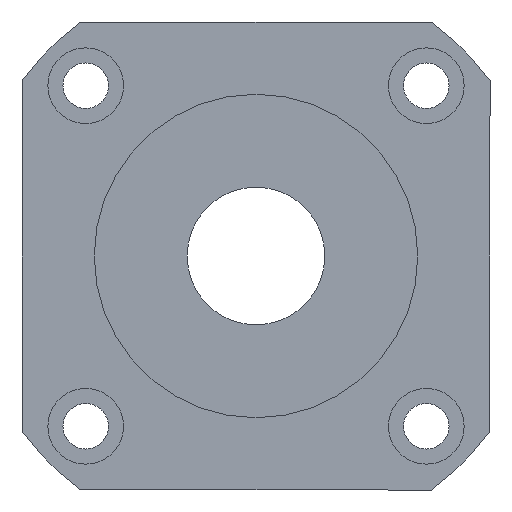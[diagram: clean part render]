
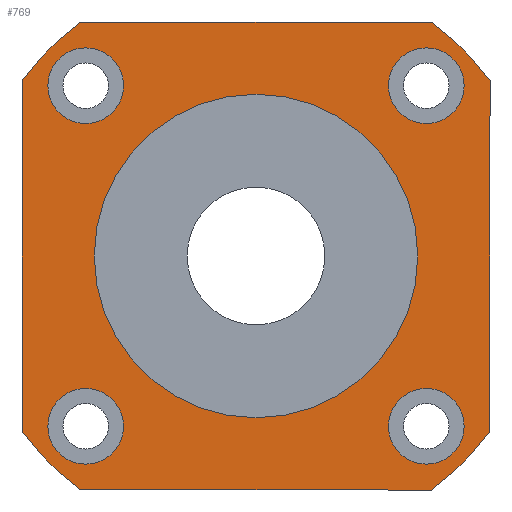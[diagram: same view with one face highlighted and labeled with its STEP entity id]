
A CAD part, left-side view. The second image highlights one B-rep face of the part: STEP entity #769.
In plain terms, the highlighted planar face has unit normal (-1, 0, 0).
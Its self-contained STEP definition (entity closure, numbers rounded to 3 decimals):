
#165=CARTESIAN_POINT('',(0.0,24.749,19.249));
#166=VERTEX_POINT('',#165);
#167=CARTESIAN_POINT('',(0.0,24.749,24.749));
#168=DIRECTION('',(1.0,0.0,0.0));
#169=DIRECTION('',(0.0,0.0,-1.0));
#170=AXIS2_PLACEMENT_3D('',#167,#168,#169);
#171=CIRCLE('',#170,5.5);
#172=EDGE_CURVE('',#166,#166,#171,.T.);
#233=CARTESIAN_POINT('',(0.0,19.249,-24.749));
#234=VERTEX_POINT('',#233);
#235=CARTESIAN_POINT('',(0.0,24.749,-24.749));
#236=DIRECTION('',(1.0,0.0,0.0));
#237=DIRECTION('',(0.0,-1.0,0.0));
#238=AXIS2_PLACEMENT_3D('',#235,#236,#237);
#239=CIRCLE('',#238,5.5);
#240=EDGE_CURVE('',#234,#234,#239,.T.);
#301=CARTESIAN_POINT('',(0.0,-24.749,-19.249));
#302=VERTEX_POINT('',#301);
#303=CARTESIAN_POINT('',(0.0,-24.749,-24.749));
#304=DIRECTION('',(1.0,0.0,0.0));
#305=DIRECTION('',(0.0,0.0,1.0));
#306=AXIS2_PLACEMENT_3D('',#303,#304,#305);
#307=CIRCLE('',#306,5.5);
#308=EDGE_CURVE('',#302,#302,#307,.T.);
#369=CARTESIAN_POINT('',(0.0,-19.249,24.749));
#370=VERTEX_POINT('',#369);
#371=CARTESIAN_POINT('',(0.0,-24.749,24.749));
#372=DIRECTION('',(1.0,0.0,0.0));
#373=DIRECTION('',(0.0,1.0,0.0));
#374=AXIS2_PLACEMENT_3D('',#371,#372,#373);
#375=CIRCLE('',#374,5.5);
#376=EDGE_CURVE('',#370,#370,#375,.T.);
#529=CARTESIAN_POINT('',(0.0,25.5,-34.));
#530=VERTEX_POINT('',#529);
#537=CARTESIAN_POINT('',(0.0,34.,-25.5));
#538=VERTEX_POINT('',#537);
#539=CARTESIAN_POINT('',(0.0,0.,0.));
#540=DIRECTION('',(1.0,0.0,0.0));
#541=DIRECTION('',(0.0,1.0,0.0));
#542=AXIS2_PLACEMENT_3D('',#539,#540,#541);
#543=CIRCLE('',#542,42.5);
#544=EDGE_CURVE('',#530,#538,#543,.T.);
#561=CARTESIAN_POINT('',(0.0,-25.5,-34.));
#562=VERTEX_POINT('',#561);
#569=CARTESIAN_POINT('',(0.0,-25.5,-34.));
#570=DIRECTION('',(0.0,1.0,0.0));
#571=VECTOR('',#570,51.0);
#572=LINE('',#569,#571);
#573=EDGE_CURVE('',#562,#530,#572,.T.);
#585=CARTESIAN_POINT('',(0.0,-34.,-25.5));
#586=VERTEX_POINT('',#585);
#593=CARTESIAN_POINT('',(0.0,0.,0.));
#594=DIRECTION('',(1.0,0.0,0.0));
#595=DIRECTION('',(0.0,1.0,0.0));
#596=AXIS2_PLACEMENT_3D('',#593,#594,#595);
#597=CIRCLE('',#596,42.5);
#598=EDGE_CURVE('',#586,#562,#597,.T.);
#610=CARTESIAN_POINT('',(0.0,-34.,25.5));
#611=VERTEX_POINT('',#610);
#618=CARTESIAN_POINT('',(0.0,-34.,25.5));
#619=DIRECTION('',(0.0,0.0,-1.0));
#620=VECTOR('',#619,51.0);
#621=LINE('',#618,#620);
#622=EDGE_CURVE('',#611,#586,#621,.T.);
#636=CARTESIAN_POINT('',(0.0,23.5,0.));
#637=VERTEX_POINT('',#636);
#638=CARTESIAN_POINT('',(0.0,0.,0.));
#639=DIRECTION('',(1.0,0.0,0.0));
#640=DIRECTION('',(0.0,-1.0,0.0));
#641=AXIS2_PLACEMENT_3D('',#638,#639,#640);
#642=CIRCLE('',#641,23.5);
#643=EDGE_CURVE('',#637,#637,#642,.T.);
#654=CARTESIAN_POINT('',(0.0,-25.5,34.));
#655=VERTEX_POINT('',#654);
#662=CARTESIAN_POINT('',(0.0,0.,0.));
#663=DIRECTION('',(1.0,0.0,0.0));
#664=DIRECTION('',(0.0,1.0,0.0));
#665=AXIS2_PLACEMENT_3D('',#662,#663,#664);
#666=CIRCLE('',#665,42.5);
#667=EDGE_CURVE('',#655,#611,#666,.T.);
#679=CARTESIAN_POINT('',(0.0,25.5,34.));
#680=VERTEX_POINT('',#679);
#687=CARTESIAN_POINT('',(0.0,25.5,34.));
#688=DIRECTION('',(0.0,-1.0,0.0));
#689=VECTOR('',#688,51.);
#690=LINE('',#687,#689);
#691=EDGE_CURVE('',#680,#655,#690,.T.);
#703=CARTESIAN_POINT('',(0.0,34.,25.5));
#704=VERTEX_POINT('',#703);
#711=CARTESIAN_POINT('',(0.0,0.,0.));
#712=DIRECTION('',(1.0,0.0,0.0));
#713=DIRECTION('',(0.0,1.0,0.0));
#714=AXIS2_PLACEMENT_3D('',#711,#712,#713);
#715=CIRCLE('',#714,42.5);
#716=EDGE_CURVE('',#704,#680,#715,.T.);
#729=CARTESIAN_POINT('',(0.0,34.,-25.5));
#730=DIRECTION('',(0.0,0.0,1.0));
#731=VECTOR('',#730,51.0);
#732=LINE('',#729,#731);
#733=EDGE_CURVE('',#538,#704,#732,.T.);
#739=CARTESIAN_POINT('',(0.0,0.,0.));
#740=DIRECTION('',(1.0,0.0,0.0));
#741=DIRECTION('',(0.0,0.0,-1.0));
#742=AXIS2_PLACEMENT_3D('',#739,#740,#741);
#743=PLANE('',#742);
#744=ORIENTED_EDGE('',*,*,#598,.F.);
#745=ORIENTED_EDGE('',*,*,#622,.F.);
#746=ORIENTED_EDGE('',*,*,#667,.F.);
#747=ORIENTED_EDGE('',*,*,#691,.F.);
#748=ORIENTED_EDGE('',*,*,#716,.F.);
#749=ORIENTED_EDGE('',*,*,#733,.F.);
#750=ORIENTED_EDGE('',*,*,#544,.F.);
#751=ORIENTED_EDGE('',*,*,#573,.F.);
#752=EDGE_LOOP('',(#744,#745,#746,#747,#748,#749,#750,#751));
#753=FACE_OUTER_BOUND('',#752,.T.);
#754=ORIENTED_EDGE('',*,*,#172,.T.);
#755=EDGE_LOOP('',(#754));
#756=FACE_BOUND('',#755,.T.);
#757=ORIENTED_EDGE('',*,*,#240,.T.);
#758=EDGE_LOOP('',(#757));
#759=FACE_BOUND('',#758,.T.);
#760=ORIENTED_EDGE('',*,*,#308,.T.);
#761=EDGE_LOOP('',(#760));
#762=FACE_BOUND('',#761,.T.);
#763=ORIENTED_EDGE('',*,*,#376,.T.);
#764=EDGE_LOOP('',(#763));
#765=FACE_BOUND('',#764,.T.);
#766=ORIENTED_EDGE('',*,*,#643,.T.);
#767=EDGE_LOOP('',(#766));
#768=FACE_BOUND('',#767,.T.);
#769=ADVANCED_FACE('',(#753,#756,#759,#762,#765,#768),#743,.F.);
